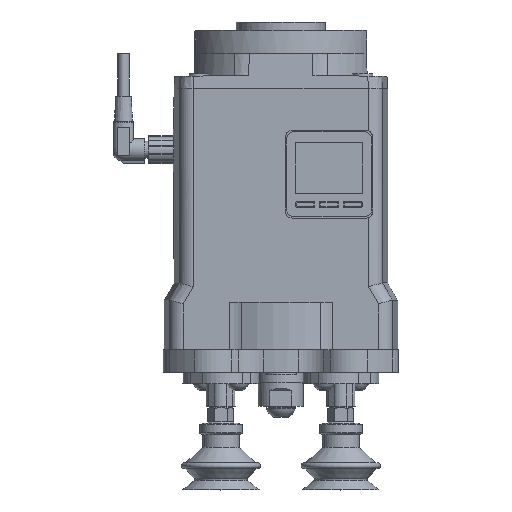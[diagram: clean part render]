
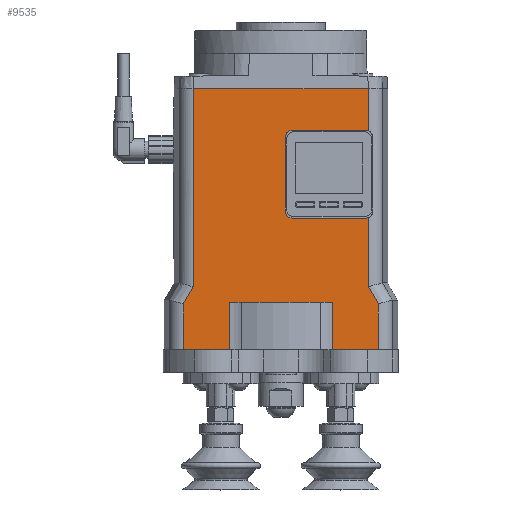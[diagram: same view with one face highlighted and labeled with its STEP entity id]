
A CAD part, top view. The second image highlights one B-rep face of the part: STEP entity #9535.
In plain terms, the highlighted planar face has unit normal (0, 0, 1).
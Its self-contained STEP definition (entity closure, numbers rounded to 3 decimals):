
#495=B_SPLINE_CURVE_WITH_KNOTS('',3,(#15026,#15027,#15028,#15029),
 .UNSPECIFIED.,.F.,.F.,(4,4),(0.,0.007),.UNSPECIFIED.);
#496=B_SPLINE_CURVE_WITH_KNOTS('',3,(#15045,#15046,#15047,#15048),
 .UNSPECIFIED.,.F.,.F.,(4,4),(0.,0.007),.UNSPECIFIED.);
#650=LINE('',#15003,#1327);
#651=LINE('',#15008,#1328);
#652=LINE('',#15012,#1329);
#653=LINE('',#15016,#1330);
#654=LINE('',#15020,#1331);
#655=LINE('',#15022,#1332);
#656=LINE('',#15024,#1333);
#657=LINE('',#15031,#1334);
#658=LINE('',#15033,#1335);
#659=LINE('',#15035,#1336);
#660=LINE('',#15037,#1337);
#661=LINE('',#15039,#1338);
#662=LINE('',#15041,#1339);
#663=LINE('',#15043,#1340);
#1327=VECTOR('',#11827,1000.);
#1328=VECTOR('',#11830,1000.);
#1329=VECTOR('',#11833,1000.);
#1330=VECTOR('',#11836,1000.);
#1331=VECTOR('',#11839,1000.);
#1332=VECTOR('',#11840,1000.);
#1333=VECTOR('',#11841,1000.);
#1334=VECTOR('',#11842,1000.);
#1335=VECTOR('',#11843,1000.);
#1336=VECTOR('',#11844,1000.);
#1337=VECTOR('',#11845,1000.);
#1338=VECTOR('',#11846,1000.);
#1339=VECTOR('',#11847,1000.);
#1340=VECTOR('',#11848,1000.);
#2066=ORIENTED_EDGE('',*,*,#4712,.T.);
#2067=ORIENTED_EDGE('',*,*,#4713,.T.);
#2068=ORIENTED_EDGE('',*,*,#4714,.T.);
#2069=ORIENTED_EDGE('',*,*,#4715,.T.);
#2070=ORIENTED_EDGE('',*,*,#4716,.T.);
#2071=ORIENTED_EDGE('',*,*,#4717,.T.);
#2072=ORIENTED_EDGE('',*,*,#4718,.T.);
#2073=ORIENTED_EDGE('',*,*,#4719,.T.);
#2074=ORIENTED_EDGE('',*,*,#4720,.T.);
#2075=ORIENTED_EDGE('',*,*,#4721,.F.);
#2076=ORIENTED_EDGE('',*,*,#4722,.T.);
#2077=ORIENTED_EDGE('',*,*,#4723,.T.);
#2078=ORIENTED_EDGE('',*,*,#4724,.T.);
#2079=ORIENTED_EDGE('',*,*,#4725,.F.);
#2080=ORIENTED_EDGE('',*,*,#4726,.F.);
#2081=ORIENTED_EDGE('',*,*,#4727,.F.);
#2082=ORIENTED_EDGE('',*,*,#4728,.T.);
#2083=ORIENTED_EDGE('',*,*,#4729,.F.);
#2084=ORIENTED_EDGE('',*,*,#4730,.T.);
#2085=ORIENTED_EDGE('',*,*,#4731,.T.);
#4712=EDGE_CURVE('',#6030,#6031,#650,.T.);
#4713=EDGE_CURVE('',#6031,#6032,#6913,.F.);
#4714=EDGE_CURVE('',#6032,#6033,#651,.T.);
#4715=EDGE_CURVE('',#6033,#6034,#6914,.F.);
#4716=EDGE_CURVE('',#6034,#6035,#652,.T.);
#4717=EDGE_CURVE('',#6035,#6036,#6915,.F.);
#4718=EDGE_CURVE('',#6036,#6037,#653,.T.);
#4719=EDGE_CURVE('',#6037,#6038,#6916,.F.);
#4720=EDGE_CURVE('',#6038,#6039,#654,.T.);
#4721=EDGE_CURVE('',#6040,#6039,#655,.T.);
#4722=EDGE_CURVE('',#6040,#6041,#656,.F.);
#4723=EDGE_CURVE('',#6041,#6042,#495,.T.);
#4724=EDGE_CURVE('',#6042,#6043,#657,.F.);
#4725=EDGE_CURVE('',#6044,#6043,#658,.T.);
#4726=EDGE_CURVE('',#6045,#6044,#659,.T.);
#4727=EDGE_CURVE('',#6046,#6045,#660,.T.);
#4728=EDGE_CURVE('',#6046,#6047,#661,.T.);
#4729=EDGE_CURVE('',#6048,#6047,#662,.T.);
#4730=EDGE_CURVE('',#6048,#6049,#663,.T.);
#4731=EDGE_CURVE('',#6049,#6030,#496,.T.);
#6030=VERTEX_POINT('',#15004);
#6031=VERTEX_POINT('',#15005);
#6032=VERTEX_POINT('',#15007);
#6033=VERTEX_POINT('',#15009);
#6034=VERTEX_POINT('',#15011);
#6035=VERTEX_POINT('',#15013);
#6036=VERTEX_POINT('',#15015);
#6037=VERTEX_POINT('',#15017);
#6038=VERTEX_POINT('',#15019);
#6039=VERTEX_POINT('',#15021);
#6040=VERTEX_POINT('',#15023);
#6041=VERTEX_POINT('',#15025);
#6042=VERTEX_POINT('',#15030);
#6043=VERTEX_POINT('',#15032);
#6044=VERTEX_POINT('',#15034);
#6045=VERTEX_POINT('',#15036);
#6046=VERTEX_POINT('',#15038);
#6047=VERTEX_POINT('',#15040);
#6048=VERTEX_POINT('',#15042);
#6049=VERTEX_POINT('',#15044);
#6913=CIRCLE('',#10531,2.5);
#6914=CIRCLE('',#10532,2.5);
#6915=CIRCLE('',#10533,2.5);
#6916=CIRCLE('',#10534,2.5);
#7398=EDGE_LOOP('',(#2066,#2067,#2068,#2069,#2070,#2071,#2072,#2073,#2074,
#2075,#2076,#2077,#2078,#2079,#2080,#2081,#2082,#2083,#2084,#2085));
#8305=FACE_BOUND('',#7398,.T.);
#9192=PLANE('',#10530);
#9535=ADVANCED_FACE('',(#8305),#9192,.T.);
#10530=AXIS2_PLACEMENT_3D('',#15002,#11825,#11826);
#10531=AXIS2_PLACEMENT_3D('',#15006,#11828,#11829);
#10532=AXIS2_PLACEMENT_3D('',#15010,#11831,#11832);
#10533=AXIS2_PLACEMENT_3D('',#15014,#11834,#11835);
#10534=AXIS2_PLACEMENT_3D('',#15018,#11837,#11838);
#11825=DIRECTION('',(0.,0.,1.));
#11826=DIRECTION('',(1.,0.,0.));
#11827=DIRECTION('',(0.,1.,0.));
#11828=DIRECTION('',(0.,0.,1.));
#11829=DIRECTION('',(1.,0.,0.));
#11830=DIRECTION('',(-1.,0.,0.));
#11831=DIRECTION('',(0.,0.,1.));
#11832=DIRECTION('',(1.,0.,0.));
#11833=DIRECTION('',(0.,1.,0.));
#11834=DIRECTION('',(0.,0.,1.));
#11835=DIRECTION('',(1.,0.,0.));
#11836=DIRECTION('',(1.,0.,0.));
#11837=DIRECTION('',(0.,0.,1.));
#11838=DIRECTION('',(1.,0.,0.));
#11839=DIRECTION('',(0.,1.,0.));
#11840=DIRECTION('',(1.,0.,0.));
#11841=DIRECTION('',(0.,1.,0.));
#11842=DIRECTION('',(0.,1.,0.));
#11843=DIRECTION('',(-1.,0.,0.));
#11844=DIRECTION('',(0.,-1.,0.));
#11845=DIRECTION('',(-1.,0.,0.));
#11846=DIRECTION('',(0.,-1.,0.));
#11847=DIRECTION('',(-1.,0.,0.));
#11848=DIRECTION('',(0.,1.,0.));
#15002=CARTESIAN_POINT('',(-35.101,-113.,29.));
#15003=CARTESIAN_POINT('',(30.95,-113.,29.));
#15004=CARTESIAN_POINT('',(30.95,-90.678,29.));
#15005=CARTESIAN_POINT('',(30.95,-66.232,29.));
#15006=CARTESIAN_POINT('',(30.05,-63.9,29.));
#15007=CARTESIAN_POINT('',(30.05,-66.4,29.));
#15008=CARTESIAN_POINT('',(-35.101,-66.4,29.));
#15009=CARTESIAN_POINT('',(4.05,-66.4,29.));
#15010=CARTESIAN_POINT('',(4.05,-63.9,29.));
#15011=CARTESIAN_POINT('',(1.55,-63.9,29.));
#15012=CARTESIAN_POINT('',(1.55,-113.,29.));
#15013=CARTESIAN_POINT('',(1.55,-37.9,29.));
#15014=CARTESIAN_POINT('',(4.05,-37.9,29.));
#15015=CARTESIAN_POINT('',(4.05,-35.4,29.));
#15016=CARTESIAN_POINT('',(-35.101,-35.4,29.));
#15017=CARTESIAN_POINT('',(30.05,-35.4,29.));
#15018=CARTESIAN_POINT('',(30.05,-37.9,29.));
#15019=CARTESIAN_POINT('',(30.95,-35.568,29.));
#15020=CARTESIAN_POINT('',(30.95,-113.,29.));
#15021=CARTESIAN_POINT('',(30.95,-20.6,29.));
#15022=CARTESIAN_POINT('',(-48.396,-20.6,29.));
#15023=CARTESIAN_POINT('',(-30.95,-20.6,29.));
#15024=CARTESIAN_POINT('',(-30.95,-113.,29.));
#15025=CARTESIAN_POINT('',(-30.95,-90.678,29.));
#15026=CARTESIAN_POINT('',(-30.95,-90.678,29.));
#15027=CARTESIAN_POINT('',(-32.134,-92.698,29.));
#15028=CARTESIAN_POINT('',(-33.317,-94.719,29.));
#15029=CARTESIAN_POINT('',(-34.5,-96.74,29.));
#15030=CARTESIAN_POINT('',(-34.5,-96.74,29.));
#15031=CARTESIAN_POINT('',(-34.5,-113.,29.));
#15032=CARTESIAN_POINT('',(-34.5,-113.,29.));
#15033=CARTESIAN_POINT('',(108.5,-113.,29.));
#15034=CARTESIAN_POINT('',(-18.111,-113.,29.));
#15035=CARTESIAN_POINT('',(-18.111,-96.2,29.));
#15036=CARTESIAN_POINT('',(-18.111,-96.2,29.));
#15037=CARTESIAN_POINT('',(-35.101,-96.2,29.));
#15038=CARTESIAN_POINT('',(18.111,-96.2,29.));
#15039=CARTESIAN_POINT('',(18.111,-96.2,29.));
#15040=CARTESIAN_POINT('',(18.111,-113.,29.));
#15041=CARTESIAN_POINT('',(108.5,-113.,29.));
#15042=CARTESIAN_POINT('',(34.5,-113.,29.));
#15043=CARTESIAN_POINT('',(34.5,-95.4,29.));
#15044=CARTESIAN_POINT('',(34.5,-96.74,29.));
#15045=CARTESIAN_POINT('',(34.5,-96.74,29.));
#15046=CARTESIAN_POINT('',(33.317,-94.719,29.));
#15047=CARTESIAN_POINT('',(32.134,-92.698,29.));
#15048=CARTESIAN_POINT('',(30.95,-90.678,29.));
